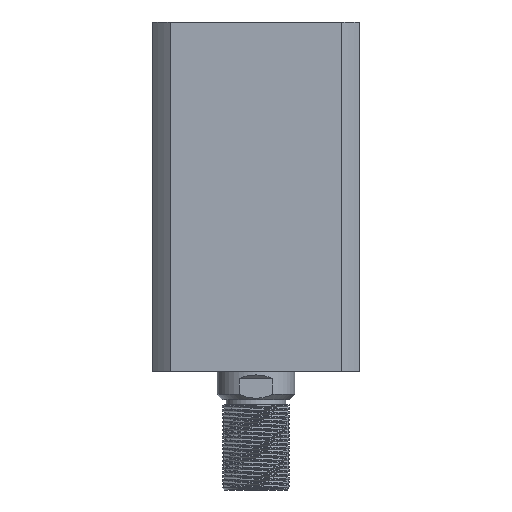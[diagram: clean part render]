
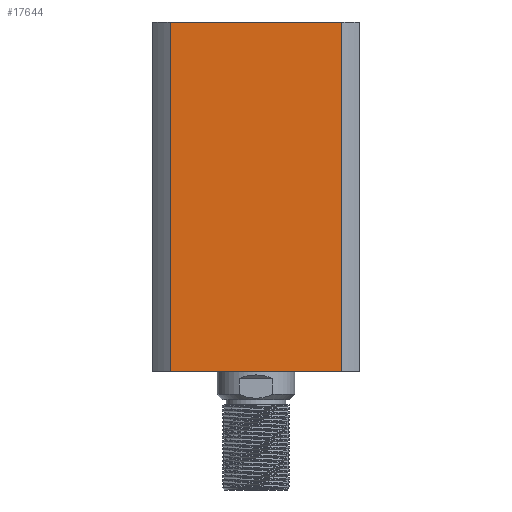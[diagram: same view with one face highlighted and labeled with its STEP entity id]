
A CAD part, left-side view. The second image highlights one B-rep face of the part: STEP entity #17644.
In plain terms, the highlighted planar face has unit normal (-1, 0, 0).
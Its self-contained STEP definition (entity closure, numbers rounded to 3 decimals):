
#556 = CARTESIAN_POINT ( 'NONE',  ( -40., 33.226, -67.5 ) ) ;
#664 = CARTESIAN_POINT ( 'NONE',  ( -40., 33.226, 67.5 ) ) ;
#1568 = ORIENTED_EDGE ( 'NONE', *, *, #8966, .T. ) ;
#3047 = CARTESIAN_POINT ( 'NONE',  ( -40., -33.226, -67.5 ) ) ;
#3436 = DIRECTION ( 'NONE',  ( 0., -1., 0. ) ) ;
#3811 = VECTOR ( 'NONE', #3436, 1000. ) ;
#4048 = CARTESIAN_POINT ( 'NONE',  ( -40., -33.226, 67.5 ) ) ;
#4204 = LINE ( 'NONE', #15360, #4413 ) ;
#4413 = VECTOR ( 'NONE', #16742, 1000. ) ;
#4476 = CARTESIAN_POINT ( 'NONE',  ( -40., 33.226, 67.5 ) ) ;
#4650 = VERTEX_POINT ( 'NONE', #16444 ) ;
#4670 = LINE ( 'NONE', #556, #7478 ) ;
#4745 = CARTESIAN_POINT ( 'NONE',  ( -40., 33.226, 67.5 ) ) ;
#5477 = ORIENTED_EDGE ( 'NONE', *, *, #8079, .F. ) ;
#5936 = VERTEX_POINT ( 'NONE', #3047 ) ;
#6134 = DIRECTION ( 'NONE',  ( 1., 0., 0. ) ) ;
#7478 = VECTOR ( 'NONE', #10240, 1000. ) ;
#7499 = LINE ( 'NONE', #664, #3811 ) ;
#8049 = EDGE_CURVE ( 'NONE', #11786, #5936, #15301, .T. ) ;
#8079 = EDGE_CURVE ( 'NONE', #9685, #11786, #7499, .T. ) ;
#8966 = EDGE_CURVE ( 'NONE', #4650, #5936, #4670, .T. ) ;
#9546 = EDGE_LOOP ( 'NONE', ( #1568, #13518, #5477, #15837 ) ) ;
#9685 = VERTEX_POINT ( 'NONE', #4476 ) ;
#9993 = EDGE_CURVE ( 'NONE', #9685, #4650, #4204, .T. ) ;
#10240 = DIRECTION ( 'NONE',  ( 0., -1., 0. ) ) ;
#10355 = CARTESIAN_POINT ( 'NONE',  ( -40., -33.226, 67.5 ) ) ;
#11543 = DIRECTION ( 'NONE',  ( 0., 1., 0. ) ) ;
#11786 = VERTEX_POINT ( 'NONE', #4048 ) ;
#12291 = AXIS2_PLACEMENT_3D ( 'NONE', #4745, #6134, #11543 ) ;
#13518 = ORIENTED_EDGE ( 'NONE', *, *, #8049, .F. ) ;
#14354 = PLANE ( 'NONE',  #12291 ) ;
#14709 = FACE_OUTER_BOUND ( 'NONE', #9546, .T. ) ;
#15301 = LINE ( 'NONE', #10355, #17664 ) ;
#15360 = CARTESIAN_POINT ( 'NONE',  ( -40., 33.226, 67.5 ) ) ;
#15837 = ORIENTED_EDGE ( 'NONE', *, *, #9993, .T. ) ;
#16444 = CARTESIAN_POINT ( 'NONE',  ( -40., 33.226, -67.5 ) ) ;
#16742 = DIRECTION ( 'NONE',  ( 0., 0., -1. ) ) ;
#17514 = DIRECTION ( 'NONE',  ( 0., 0., -1. ) ) ;
#17644 = ADVANCED_FACE ( 'NONE', ( #14709 ), #14354, .F. ) ;
#17664 = VECTOR ( 'NONE', #17514, 1000. ) ;
